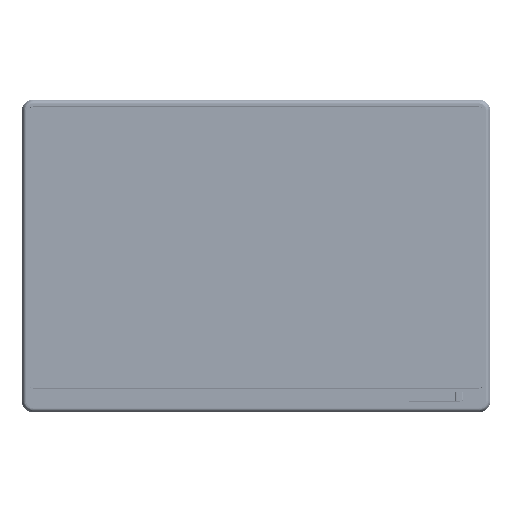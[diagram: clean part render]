
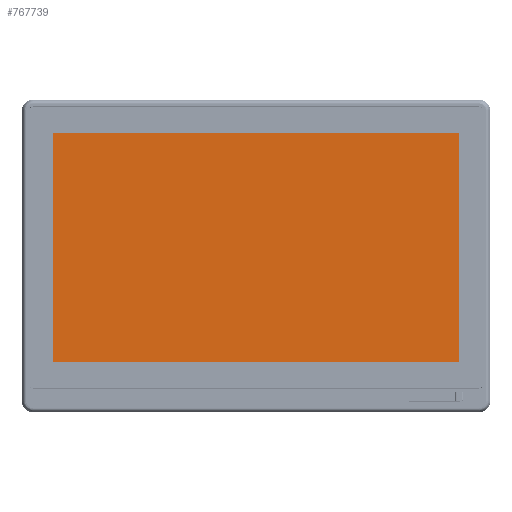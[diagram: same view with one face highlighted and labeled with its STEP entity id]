
A CAD part, top view. The second image highlights one B-rep face of the part: STEP entity #767739.
In plain terms, the highlighted planar face has unit normal (0, 0, 1).
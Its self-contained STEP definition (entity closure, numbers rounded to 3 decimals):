
#493 = DIRECTION ( 'NONE',  ( 0., -1., 0. ) ) ;
#14442 = ORIENTED_EDGE ( 'NONE', *, *, #815361, .T. ) ;
#20200 = VERTEX_POINT ( 'NONE', #744200 ) ;
#31983 = EDGE_CURVE ( 'NONE', #176492, #20200, #720742, .T. ) ;
#99221 = VERTEX_POINT ( 'NONE', #168771 ) ;
#151929 = DIRECTION ( 'NONE',  ( -1., 0., 0. ) ) ;
#165932 = CARTESIAN_POINT ( 'NONE',  ( -177.614, 111.092, 863.4 ) ) ;
#168771 = CARTESIAN_POINT ( 'NONE',  ( -177.614, 111.092, 863.4 ) ) ;
#176492 = VERTEX_POINT ( 'NONE', #785665 ) ;
#295423 = LINE ( 'NONE', #778578, #620421 ) ;
#296636 = VECTOR ( 'NONE', #637423, 1000. ) ;
#319327 = LINE ( 'NONE', #165932, #664694 ) ;
#366280 = CARTESIAN_POINT ( 'NONE',  ( 13.326, 6.982, 863.4 ) ) ;
#395509 = VECTOR ( 'NONE', #637476, 1000. ) ;
#428716 = PLANE ( 'NONE',  #473952 ) ;
#431512 = DIRECTION ( 'NONE',  ( 1., 0., 0. ) ) ;
#473952 = AXIS2_PLACEMENT_3D ( 'NONE', #366280, #820760, #431512 ) ;
#534445 = ORIENTED_EDGE ( 'NONE', *, *, #768835, .T. ) ;
#547285 = EDGE_CURVE ( 'NONE', #606883, #176492, #814867, .T. ) ;
#574665 = FACE_OUTER_BOUND ( 'NONE', #630021, .T. ) ;
#574716 = CARTESIAN_POINT ( 'NONE',  ( -177.614, -103.718, 863.4 ) ) ;
#577589 = CARTESIAN_POINT ( 'NONE',  ( 204.276, 111.092, 863.4 ) ) ;
#577849 = ORIENTED_EDGE ( 'NONE', *, *, #31983, .T. ) ;
#606883 = VERTEX_POINT ( 'NONE', #774607 ) ;
#620421 = VECTOR ( 'NONE', #493, 1000. ) ;
#630021 = EDGE_LOOP ( 'NONE', ( #534445, #706188, #577849, #14442 ) ) ;
#637423 = DIRECTION ( 'NONE',  ( 1., 0., 0. ) ) ;
#637476 = DIRECTION ( 'NONE',  ( 0., 1., 0. ) ) ;
#664694 = VECTOR ( 'NONE', #151929, 1000. ) ;
#706188 = ORIENTED_EDGE ( 'NONE', *, *, #547285, .T. ) ;
#720742 = LINE ( 'NONE', #577589, #395509 ) ;
#744200 = CARTESIAN_POINT ( 'NONE',  ( 204.276, 111.092, 863.4 ) ) ;
#767739 = ADVANCED_FACE ( 'NONE', ( #574665 ), #428716, .T. ) ;
#768835 = EDGE_CURVE ( 'NONE', #99221, #606883, #295423, .T. ) ;
#774607 = CARTESIAN_POINT ( 'NONE',  ( -177.614, -103.718, 863.4 ) ) ;
#778578 = CARTESIAN_POINT ( 'NONE',  ( -177.614, 111.092, 863.4 ) ) ;
#785665 = CARTESIAN_POINT ( 'NONE',  ( 204.276, -103.718, 863.4 ) ) ;
#814867 = LINE ( 'NONE', #574716, #296636 ) ;
#815361 = EDGE_CURVE ( 'NONE', #20200, #99221, #319327, .T. ) ;
#820760 = DIRECTION ( 'NONE',  ( 0., 0., 1. ) ) ;
